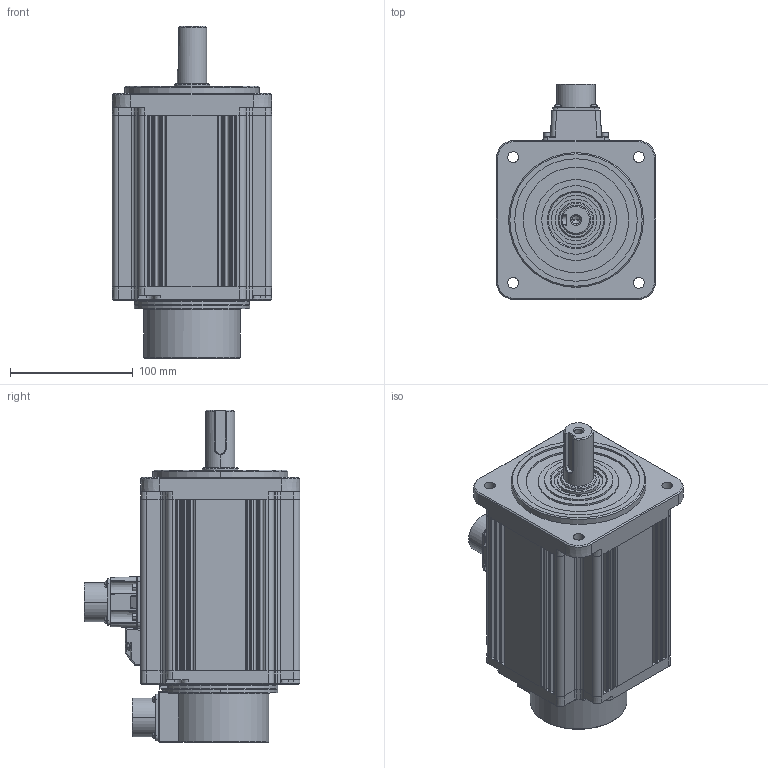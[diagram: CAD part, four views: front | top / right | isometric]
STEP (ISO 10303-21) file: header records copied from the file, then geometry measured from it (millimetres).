
FILE_DESCRIPTION((''),'2;1');
FILE_NAME('ECMA-JX1330S4_ASM','2016-05-11T',('MIO.CHEN'),(''),'PRO/ENGINEER BY PARAMETRIC TECHNOLOGY CORPORATION, 2010180','PRO/ENGINEER BY PARAMETRIC TECHNOLOGY CORPORATION, 2010180','');
FILE_SCHEMA(('AUTOMOTIVE_DESIGN_CC2 { 1 2 10303 214 -1 1 5 2 }'));
Length unit declared in the file: millimetre
Products named in the file (3): MSBR-1; _ECMA-JX1330S4; ECMA-JX1330S4_ASM
Assembly tree (2 placements, depth 2):
  ECMA-JX1330S4_ASM
    MSBR-1
    _ECMA-JX1330S4
Bounding box: 130 x 176.14 x 271 mm (x, y, z)
Volume: 2923353.6 mm3; surface area: 173970.4 mm2
Topology: 1 solids, 2 shells, 692 faces, 1664 edges, 999 vertices
Faces by surface type: plane 309, cylinder 231, cone 88, bspline 30, sphere 20, torus 14
Entity records: 20971 total; most frequent: CARTESIAN_POINT 4695, DIRECTION 3501, ORIENTED_EDGE 3316, EDGE_CURVE 1658, AXIS2_PLACEMENT_3D 1284, VERTEX_POINT 999, VECTOR 933, LINE 933
